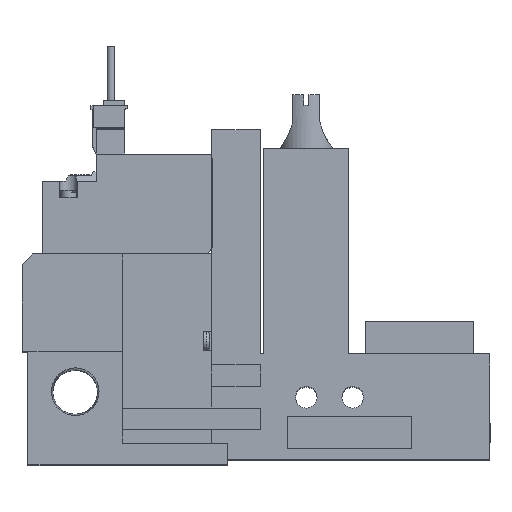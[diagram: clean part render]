
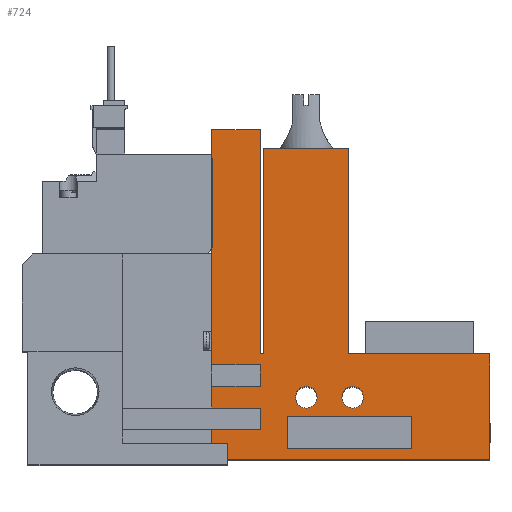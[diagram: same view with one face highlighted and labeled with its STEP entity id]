
A CAD part, top view. The second image highlights one B-rep face of the part: STEP entity #724.
In plain terms, the highlighted planar face has unit normal (0, 0, 1).
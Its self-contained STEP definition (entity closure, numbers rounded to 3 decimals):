
#724=ADVANCED_FACE('',(#1424,#1425,#1426,#1427),#1428,.T.);
#1424=FACE_OUTER_BOUND('',#2390,.T.);
#1425=FACE_BOUND('',#2391,.T.);
#1426=FACE_BOUND('',#2392,.T.);
#1427=FACE_BOUND('',#2393,.T.);
#1428=PLANE('',#2394);
#2390=EDGE_LOOP('',(#4921,#4922,#4923,#4924,#4925,#4926,#4927,#4928,#4929,#4930,#4931,#4932,#4933,#4934,#4935,#4936,#4937,#4938));
#2391=EDGE_LOOP('',(#4939,#4940,#4941,#4942));
#2392=EDGE_LOOP('',(#4943));
#2393=EDGE_LOOP('',(#4944));
#2394=AXIS2_PLACEMENT_3D('',#4945,#4946,#4947);
#4921=ORIENTED_EDGE('',*,*,#6724,.T.);
#4922=ORIENTED_EDGE('',*,*,#6772,.T.);
#4923=ORIENTED_EDGE('',*,*,#6795,.T.);
#4924=ORIENTED_EDGE('',*,*,#6768,.T.);
#4925=ORIENTED_EDGE('',*,*,#6796,.T.);
#4926=ORIENTED_EDGE('',*,*,#6797,.T.);
#4927=ORIENTED_EDGE('',*,*,#6798,.T.);
#4928=ORIENTED_EDGE('',*,*,#6799,.T.);
#4929=ORIENTED_EDGE('',*,*,#6743,.T.);
#4930=ORIENTED_EDGE('',*,*,#6800,.T.);
#4931=ORIENTED_EDGE('',*,*,#6801,.T.);
#4932=ORIENTED_EDGE('',*,*,#6802,.T.);
#4933=ORIENTED_EDGE('',*,*,#6803,.T.);
#4934=ORIENTED_EDGE('',*,*,#6804,.T.);
#4935=ORIENTED_EDGE('',*,*,#6805,.T.);
#4936=ORIENTED_EDGE('',*,*,#6793,.T.);
#4937=ORIENTED_EDGE('',*,*,#6806,.T.);
#4938=ORIENTED_EDGE('',*,*,#6807,.T.);
#4939=ORIENTED_EDGE('',*,*,#6808,.T.);
#4940=ORIENTED_EDGE('',*,*,#6809,.T.);
#4941=ORIENTED_EDGE('',*,*,#6810,.T.);
#4942=ORIENTED_EDGE('',*,*,#6780,.T.);
#4943=ORIENTED_EDGE('',*,*,#6760,.T.);
#4944=ORIENTED_EDGE('',*,*,#6811,.T.);
#4945=CARTESIAN_POINT('',(0.0,0.0,10.0));
#4946=DIRECTION('',(0.0,0.0,1.0));
#4947=DIRECTION('',(1.0,0.0,0.0));
#6724=EDGE_CURVE('',#8178,#8176,#8179,.T.);
#6743=EDGE_CURVE('',#8207,#8211,#8213,.T.);
#6760=EDGE_CURVE('',#8243,#8243,#8244,.T.);
#6768=EDGE_CURVE('',#8250,#8257,#8259,.T.);
#6772=EDGE_CURVE('',#8176,#8264,#8266,.T.);
#6780=EDGE_CURVE('',#8275,#8280,#8282,.T.);
#6793=EDGE_CURVE('',#8304,#8302,#8305,.T.);
#6795=EDGE_CURVE('',#8264,#8250,#8307,.T.);
#6796=EDGE_CURVE('',#8257,#8308,#8309,.T.);
#6797=EDGE_CURVE('',#8308,#8310,#8311,.T.);
#6798=EDGE_CURVE('',#8310,#8312,#8313,.T.);
#6799=EDGE_CURVE('',#8312,#8207,#8314,.T.);
#6800=EDGE_CURVE('',#8211,#8315,#8316,.T.);
#6801=EDGE_CURVE('',#8315,#8317,#8318,.T.);
#6802=EDGE_CURVE('',#8317,#8319,#8320,.T.);
#6803=EDGE_CURVE('',#8319,#8321,#8322,.T.);
#6804=EDGE_CURVE('',#8321,#8323,#8324,.T.);
#6805=EDGE_CURVE('',#8323,#8304,#8325,.T.);
#6806=EDGE_CURVE('',#8302,#8326,#8327,.T.);
#6807=EDGE_CURVE('',#8326,#8178,#8328,.T.);
#6808=EDGE_CURVE('',#8280,#8329,#8330,.T.);
#6809=EDGE_CURVE('',#8329,#8331,#8332,.T.);
#6810=EDGE_CURVE('',#8331,#8275,#8333,.T.);
#6811=EDGE_CURVE('',#8334,#8334,#8335,.T.);
#8176=VERTEX_POINT('',#10531);
#8178=VERTEX_POINT('',#10534);
#8179=LINE('',#10535,#10536);
#8207=VERTEX_POINT('',#10576);
#8211=VERTEX_POINT('',#10582);
#8213=LINE('',#10585,#10586);
#8243=VERTEX_POINT('',#10631);
#8244=CIRCLE('',#10632,2.0);
#8250=VERTEX_POINT('',#10641);
#8257=VERTEX_POINT('',#10651);
#8259=LINE('',#10654,#10655);
#8264=VERTEX_POINT('',#10662);
#8266=LINE('',#10665,#10666);
#8275=VERTEX_POINT('',#10679);
#8280=VERTEX_POINT('',#10686);
#8282=LINE('',#10689,#10690);
#8302=VERTEX_POINT('',#10721);
#8304=VERTEX_POINT('',#10724);
#8305=LINE('',#10725,#10726);
#8307=LINE('',#10729,#10730);
#8308=VERTEX_POINT('',#10731);
#8309=LINE('',#10732,#10733);
#8310=VERTEX_POINT('',#10734);
#8311=LINE('',#10735,#10736);
#8312=VERTEX_POINT('',#10737);
#8313=LINE('',#10738,#10739);
#8314=LINE('',#10740,#10741);
#8315=VERTEX_POINT('',#10742);
#8316=LINE('',#10743,#10744);
#8317=VERTEX_POINT('',#10745);
#8318=LINE('',#10746,#10747);
#8319=VERTEX_POINT('',#10748);
#8320=LINE('',#10749,#10750);
#8321=VERTEX_POINT('',#10751);
#8322=LINE('',#10752,#10753);
#8323=VERTEX_POINT('',#10754);
#8324=LINE('',#10755,#10756);
#8325=LINE('',#10757,#10758);
#8326=VERTEX_POINT('',#10759);
#8327=LINE('',#10760,#10761);
#8328=LINE('',#10762,#10763);
#8329=VERTEX_POINT('',#10764);
#8330=LINE('',#10765,#10766);
#8331=VERTEX_POINT('',#10767);
#8332=LINE('',#10768,#10769);
#8333=LINE('',#10770,#10771);
#8334=VERTEX_POINT('',#10772);
#8335=CIRCLE('',#10773,2.0);
#10531=CARTESIAN_POINT('',(35.1,17.5,10.0));
#10534=CARTESIAN_POINT('',(35.1,61.0,10.0));
#10535=CARTESIAN_POINT('',(35.1,61.0,10.0));
#10536=VECTOR('',#12410,1.0);
#10576=CARTESIAN_POINT('',(35.1,5.5,10.0));
#10582=CARTESIAN_POINT('',(35.1,0.0,10.0));
#10585=CARTESIAN_POINT('',(35.1,0.0,10.0));
#10586=VECTOR('',#12435,1.0);
#10631=CARTESIAN_POINT('',(54.6,11.5,10.0));
#10632=AXIS2_PLACEMENT_3D('',#12454,#12455,#12456);
#10641=CARTESIAN_POINT('',(44.1,13.5,10.0));
#10651=CARTESIAN_POINT('',(35.1,13.5,10.0));
#10654=CARTESIAN_POINT('',(0.0,13.5,10.0));
#10655=VECTOR('',#12464,1.0);
#10662=CARTESIAN_POINT('',(44.1,17.5,10.0));
#10665=CARTESIAN_POINT('',(0.0,17.5,10.0));
#10666=VECTOR('',#12468,1.0);
#10679=CARTESIAN_POINT('',(72.1,2.0,10.0));
#10686=CARTESIAN_POINT('',(49.1,2.0,10.0));
#10689=CARTESIAN_POINT('',(0.0,2.0,10.0));
#10690=VECTOR('',#12476,1.0);
#10721=CARTESIAN_POINT('',(44.1,19.5,10.0));
#10724=CARTESIAN_POINT('',(44.75,19.5,10.0));
#10725=CARTESIAN_POINT('',(44.75,19.5,10.0));
#10726=VECTOR('',#12489,1.0);
#10729=CARTESIAN_POINT('',(44.1,0.0,10.0));
#10730=VECTOR('',#12491,1.0);
#10731=CARTESIAN_POINT('',(35.1,9.5,10.0));
#10732=CARTESIAN_POINT('',(35.1,0.0,10.0));
#10733=VECTOR('',#12492,1.0);
#10734=CARTESIAN_POINT('',(44.1,9.5,10.0));
#10735=CARTESIAN_POINT('',(0.0,9.5,10.0));
#10736=VECTOR('',#12493,1.0);
#10737=CARTESIAN_POINT('',(44.1,5.5,10.0));
#10738=CARTESIAN_POINT('',(44.1,0.0,10.0));
#10739=VECTOR('',#12494,1.0);
#10740=CARTESIAN_POINT('',(0.0,5.5,10.0));
#10741=VECTOR('',#12495,1.0);
#10742=CARTESIAN_POINT('',(86.6,0.0,10.0));
#10743=CARTESIAN_POINT('',(18.6,0.0,10.0));
#10744=VECTOR('',#12496,1.0);
#10745=CARTESIAN_POINT('',(86.6,19.5,10.0));
#10746=CARTESIAN_POINT('',(86.6,0.0,10.0));
#10747=VECTOR('',#12497,1.0);
#10748=CARTESIAN_POINT('',(60.45,19.5,10.0));
#10749=CARTESIAN_POINT('',(86.6,19.5,10.0));
#10750=VECTOR('',#12498,1.0);
#10751=CARTESIAN_POINT('',(60.45,57.5,10.0));
#10752=CARTESIAN_POINT('',(60.45,19.5,10.0));
#10753=VECTOR('',#12499,1.0);
#10754=CARTESIAN_POINT('',(44.75,57.5,10.0));
#10755=CARTESIAN_POINT('',(60.45,57.5,10.0));
#10756=VECTOR('',#12500,1.0);
#10757=CARTESIAN_POINT('',(44.75,57.5,10.0));
#10758=VECTOR('',#12501,1.0);
#10759=CARTESIAN_POINT('',(44.1,61.0,10.0));
#10760=CARTESIAN_POINT('',(44.1,19.5,10.0));
#10761=VECTOR('',#12502,1.0);
#10762=CARTESIAN_POINT('',(44.1,61.0,10.0));
#10763=VECTOR('',#12503,1.0);
#10764=CARTESIAN_POINT('',(49.1,8.0,10.0));
#10765=CARTESIAN_POINT('',(49.1,0.0,10.0));
#10766=VECTOR('',#12504,1.0);
#10767=CARTESIAN_POINT('',(72.1,8.0,10.0));
#10768=CARTESIAN_POINT('',(0.0,8.0,10.0));
#10769=VECTOR('',#12505,1.0);
#10770=CARTESIAN_POINT('',(72.1,0.0,10.0));
#10771=VECTOR('',#12506,1.0);
#10772=CARTESIAN_POINT('',(63.2,11.5,10.0));
#10773=AXIS2_PLACEMENT_3D('',#12507,#12508,#12509);
#12410=DIRECTION('',(0.0,-1.0,0.0));
#12435=DIRECTION('',(0.0,-1.0,0.0));
#12454=CARTESIAN_POINT('',(52.6,11.5,10.0));
#12455=DIRECTION('',(0.0,0.0,-1.0));
#12456=DIRECTION('',(1.0,0.0,0.0));
#12464=DIRECTION('',(-1.0,0.0,0.0));
#12468=DIRECTION('',(1.0,0.0,0.0));
#12476=DIRECTION('',(-1.0,0.0,0.0));
#12489=DIRECTION('',(-1.0,0.0,0.0));
#12491=DIRECTION('',(0.0,-1.0,0.0));
#12492=DIRECTION('',(0.0,-1.0,0.0));
#12493=DIRECTION('',(1.0,0.0,0.0));
#12494=DIRECTION('',(0.0,-1.0,0.0));
#12495=DIRECTION('',(-1.0,0.0,0.0));
#12496=DIRECTION('',(1.0,0.0,0.0));
#12497=DIRECTION('',(0.0,1.0,0.0));
#12498=DIRECTION('',(-1.0,0.0,0.0));
#12499=DIRECTION('',(0.0,1.0,0.0));
#12500=DIRECTION('',(-1.0,0.0,0.0));
#12501=DIRECTION('',(0.0,-1.0,0.0));
#12502=DIRECTION('',(0.0,1.0,0.0));
#12503=DIRECTION('',(-1.0,0.0,0.0));
#12504=DIRECTION('',(0.0,1.0,0.0));
#12505=DIRECTION('',(1.0,0.0,0.0));
#12506=DIRECTION('',(0.0,-1.0,0.0));
#12507=CARTESIAN_POINT('',(61.2,11.5,10.0));
#12508=DIRECTION('',(0.0,0.0,-1.0));
#12509=DIRECTION('',(1.0,0.0,0.0));
